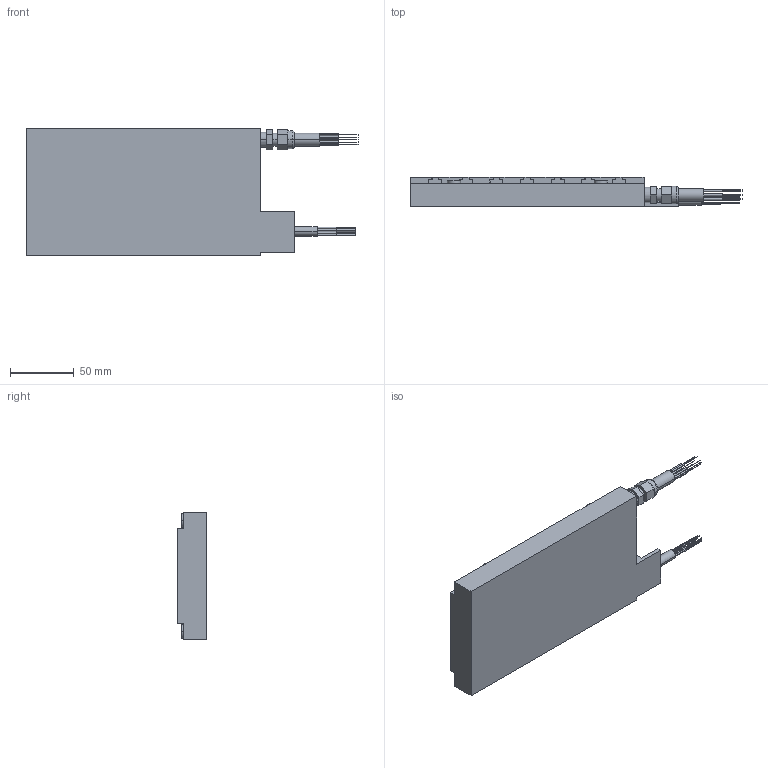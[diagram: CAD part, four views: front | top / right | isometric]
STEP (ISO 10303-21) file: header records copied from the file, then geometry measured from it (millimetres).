
FILE_DESCRIPTION((''),'2;1');
FILE_NAME('ICD10-075','2007-01-14T',('saurabh.singhal'),(''),'PRO/ENGINEER BY PARAMETRIC TECHNOLOGY CORPORATION, 2005450','PRO/ENGINEER BY PARAMETRIC TECHNOLOGY CORPORATION, 2005450','');
FILE_SCHEMA(('CONFIG_CONTROL_DESIGN'));
Length unit declared in the file: millimetre
Products named in the file (1): ICD10-075
Bounding box: 260.3 x 23.2 x 100 mm (x, y, z)
Volume: 416412.4 mm3; surface area: 73506.9 mm2
Topology: 1 solids, 36 shells, 544 faces, 1339 edges, 854 vertices
Faces by surface type: plane 244, cylinder 228, cone 70, torus 2
Entity records: 15681 total; most frequent: DIRECTION 2893, CARTESIAN_POINT 2668, ORIENTED_EDGE 2398, EDGE_CURVE 1269, AXIS2_PLACEMENT_3D 1079, VERTEX_POINT 854, VECTOR 735, LINE 735
